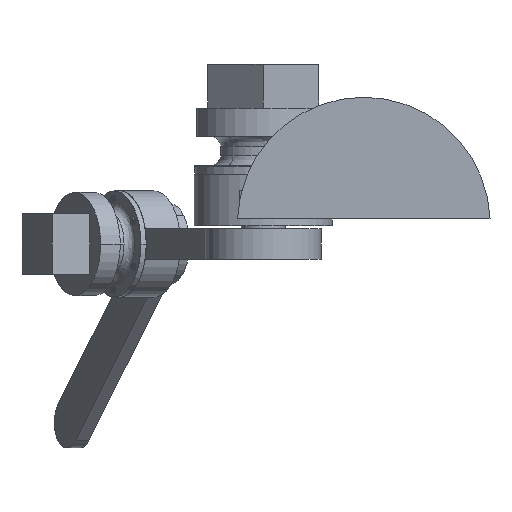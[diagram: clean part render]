
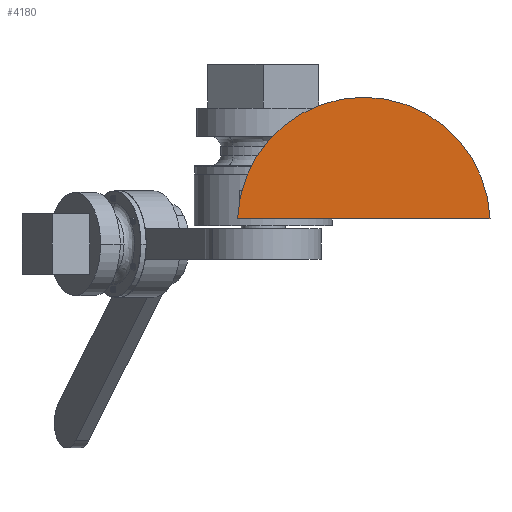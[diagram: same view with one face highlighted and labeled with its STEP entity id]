
A CAD part, front view. The second image highlights one B-rep face of the part: STEP entity #4180.
In plain terms, the highlighted planar face has unit normal (0, -1, 0).
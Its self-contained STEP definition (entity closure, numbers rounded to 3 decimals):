
#231 = CARTESIAN_POINT ( 'NONE',  ( 0., 0., 0. ) ) ;
#233 = PLANE ( 'NONE',  #16100 ) ;
#236 = DIRECTION ( 'NONE',  ( 0., -1., 0. ) ) ;
#237 = DIRECTION ( 'NONE',  ( 0., 0., -1. ) ) ;
#603 = FACE_OUTER_BOUND ( 'NONE', #12439, .T. ) ;
#1996 = CARTESIAN_POINT ( 'NONE',  ( 249.834, 0., 9.1 ) ) ;
#3480 = CIRCLE ( 'NONE', #4925, 250. ) ;
#3485 = LINE ( 'NONE', #5923, #3488 ) ;
#3488 = VECTOR ( 'NONE', #5924, 1000. ) ;
#4180 = ADVANCED_FACE ( 'NONE', ( #603 ), #233, .T. ) ;
#4925 = AXIS2_PLACEMENT_3D ( 'NONE', #5919, #5920, #5921 ) ;
#5919 = CARTESIAN_POINT ( 'NONE',  ( 0., 0., 0. ) ) ;
#5920 = DIRECTION ( 'NONE',  ( 0., -1., 0. ) ) ;
#5921 = DIRECTION ( 'NONE',  ( 0., 0., -1. ) ) ;
#5923 = CARTESIAN_POINT ( 'NONE',  ( 0., 0., 9.1 ) ) ;
#5924 = DIRECTION ( 'NONE',  ( 1., 0., 0. ) ) ;
#7040 = CARTESIAN_POINT ( 'NONE',  ( -249.834, 0., 9.1 ) ) ;
#12300 = ORIENTED_EDGE ( 'NONE', *, *, #13484, .T. ) ;
#12301 = ORIENTED_EDGE ( 'NONE', *, *, #13487, .T. ) ;
#12439 = EDGE_LOOP ( 'NONE', ( #12300, #12301 ) ) ;
#12992 = VERTEX_POINT ( 'NONE', #1996 ) ;
#13484 = EDGE_CURVE ( 'NONE', #12992, #13803, #3480, .T. ) ;
#13487 = EDGE_CURVE ( 'NONE', #13803, #12992, #3485, .T. ) ;
#13803 = VERTEX_POINT ( 'NONE', #7040 ) ;
#16100 = AXIS2_PLACEMENT_3D ( 'NONE', #231, #236, #237 ) ;
